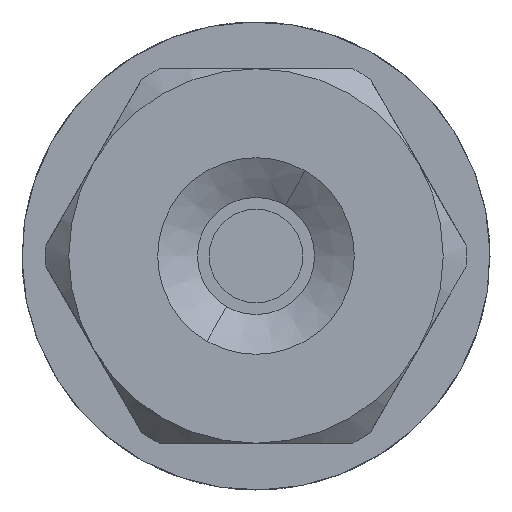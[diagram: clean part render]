
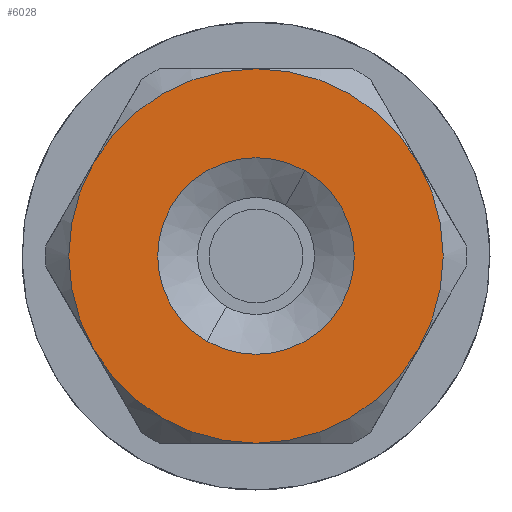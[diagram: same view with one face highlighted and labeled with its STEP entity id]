
A CAD part, front view. The second image highlights one B-rep face of the part: STEP entity #6028.
In plain terms, the highlighted planar face has unit normal (0, -1, 0).
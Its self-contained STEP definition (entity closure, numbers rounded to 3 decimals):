
#81 = CARTESIAN_POINT ( 'NONE',  ( -3.537, -7.875, 13. ) ) ;
#160 = CARTESIAN_POINT ( 'NONE',  ( -3.537, -7.875, 17. ) ) ;
#270 = CIRCLE ( 'NONE', #10194, 4. ) ;
#277 = VERTEX_POINT ( 'NONE', #619 ) ;
#345 = DIRECTION ( 'NONE',  ( 0.866, 0., -0.5 ) ) ;
#619 = CARTESIAN_POINT ( 'NONE',  ( -2.487, -7.875, 18.819 ) ) ;
#651 = AXIS2_PLACEMENT_3D ( 'NONE', #2520, #8050, #3325 ) ;
#726 = FACE_OUTER_BOUND ( 'NONE', #1029, .T. ) ;
#922 = CARTESIAN_POINT ( 'NONE',  ( -3.537, -7.875, 17. ) ) ;
#938 = AXIS2_PLACEMENT_3D ( 'NONE', #6075, #1323, #6859 ) ;
#966 = DIRECTION ( 'NONE',  ( -0.5, 0., -0.866 ) ) ;
#991 = AXIS2_PLACEMENT_3D ( 'NONE', #9471, #9392, #7077 ) ;
#1029 = EDGE_LOOP ( 'NONE', ( #7918, #4050, #4508, #2924, #6361, #1460 ) ) ;
#1323 = DIRECTION ( 'NONE',  ( 0., -1., 0. ) ) ;
#1460 = ORIENTED_EDGE ( 'NONE', *, *, #1888, .T. ) ;
#1719 = EDGE_CURVE ( 'NONE', #277, #6785, #5380, .T. ) ;
#1735 = DIRECTION ( 'NONE',  ( 0.866, 0., -0.5 ) ) ;
#1888 = EDGE_CURVE ( 'NONE', #7612, #5974, #2024, .T. ) ;
#2024 = CIRCLE ( 'NONE', #4726, 4. ) ;
#2203 = DIRECTION ( 'NONE',  ( 0., -1., 0. ) ) ;
#2485 = EDGE_LOOP ( 'NONE', ( #5484, #7243 ) ) ;
#2520 = CARTESIAN_POINT ( 'NONE',  ( -5.019, -7.875, 22.53 ) ) ;
#2625 = CIRCLE ( 'NONE', #938, 4. ) ;
#2893 = EDGE_CURVE ( 'NONE', #5393, #4580, #4692, .T. ) ;
#2924 = ORIENTED_EDGE ( 'NONE', *, *, #6706, .T. ) ;
#3325 = DIRECTION ( 'NONE',  ( 0.866, 0., -0.5 ) ) ;
#3608 = CARTESIAN_POINT ( 'NONE',  ( -3.537, -7.875, 17. ) ) ;
#3642 = CARTESIAN_POINT ( 'NONE',  ( -3.537, -7.875, 21. ) ) ;
#3689 = CARTESIAN_POINT ( 'NONE',  ( -3.537, -7.875, 17. ) ) ;
#3788 = CIRCLE ( 'NONE', #4846, 2.1 ) ;
#4050 = ORIENTED_EDGE ( 'NONE', *, *, #9643, .T. ) ;
#4399 = DIRECTION ( 'NONE',  ( 0.866, 0., -0.5 ) ) ;
#4469 = DIRECTION ( 'NONE',  ( 0.866, 0., -0.5 ) ) ;
#4508 = ORIENTED_EDGE ( 'NONE', *, *, #2893, .T. ) ;
#4580 = VERTEX_POINT ( 'NONE', #5040 ) ;
#4670 = DIRECTION ( 'NONE',  ( 0., -1., 0. ) ) ;
#4692 = CIRCLE ( 'NONE', #8287, 4. ) ;
#4726 = AXIS2_PLACEMENT_3D ( 'NONE', #6691, #2203, #345 ) ;
#4846 = AXIS2_PLACEMENT_3D ( 'NONE', #160, #5727, #966 ) ;
#4879 = CIRCLE ( 'NONE', #7345, 4. ) ;
#5040 = CARTESIAN_POINT ( 'NONE',  ( -0.073, -7.875, 15. ) ) ;
#5380 = CIRCLE ( 'NONE', #991, 2.1 ) ;
#5393 = VERTEX_POINT ( 'NONE', #81 ) ;
#5484 = ORIENTED_EDGE ( 'NONE', *, *, #9995, .F. ) ;
#5499 = CARTESIAN_POINT ( 'NONE',  ( -7.001, -7.875, 15. ) ) ;
#5638 = CARTESIAN_POINT ( 'NONE',  ( -4.587, -7.875, 15.181 ) ) ;
#5727 = DIRECTION ( 'NONE',  ( 0., -1., 0. ) ) ;
#5974 = VERTEX_POINT ( 'NONE', #8652 ) ;
#6028 = ADVANCED_FACE ( 'NONE', ( #8890, #726 ), #8016, .F. ) ;
#6075 = CARTESIAN_POINT ( 'NONE',  ( -3.537, -7.875, 17. ) ) ;
#6140 = EDGE_CURVE ( 'NONE', #5974, #6231, #4879, .T. ) ;
#6231 = VERTEX_POINT ( 'NONE', #5499 ) ;
#6361 = ORIENTED_EDGE ( 'NONE', *, *, #9710, .T. ) ;
#6456 = DIRECTION ( 'NONE',  ( 0., -1., 0. ) ) ;
#6691 = CARTESIAN_POINT ( 'NONE',  ( -3.537, -7.875, 17. ) ) ;
#6706 = EDGE_CURVE ( 'NONE', #4580, #7085, #2625, .T. ) ;
#6785 = VERTEX_POINT ( 'NONE', #5638 ) ;
#6842 = CARTESIAN_POINT ( 'NONE',  ( -0.073, -7.875, 19. ) ) ;
#6859 = DIRECTION ( 'NONE',  ( 0.866, 0., -0.5 ) ) ;
#7077 = DIRECTION ( 'NONE',  ( -0.5, 0., -0.866 ) ) ;
#7085 = VERTEX_POINT ( 'NONE', #6842 ) ;
#7243 = ORIENTED_EDGE ( 'NONE', *, *, #1719, .F. ) ;
#7345 = AXIS2_PLACEMENT_3D ( 'NONE', #9383, #4670, #10192 ) ;
#7612 = VERTEX_POINT ( 'NONE', #3642 ) ;
#7918 = ORIENTED_EDGE ( 'NONE', *, *, #6140, .T. ) ;
#8016 = PLANE ( 'NONE',  #651 ) ;
#8050 = DIRECTION ( 'NONE',  ( 0., 1., 0. ) ) ;
#8073 = AXIS2_PLACEMENT_3D ( 'NONE', #3608, #9114, #4399 ) ;
#8287 = AXIS2_PLACEMENT_3D ( 'NONE', #922, #6456, #1735 ) ;
#8652 = CARTESIAN_POINT ( 'NONE',  ( -7.001, -7.875, 19. ) ) ;
#8890 = FACE_BOUND ( 'NONE', #2485, .T. ) ;
#8948 = CIRCLE ( 'NONE', #8073, 4. ) ;
#9114 = DIRECTION ( 'NONE',  ( 0., -1., 0. ) ) ;
#9189 = DIRECTION ( 'NONE',  ( 0., -1., 0. ) ) ;
#9383 = CARTESIAN_POINT ( 'NONE',  ( -3.537, -7.875, 17. ) ) ;
#9392 = DIRECTION ( 'NONE',  ( 0., -1., 0. ) ) ;
#9471 = CARTESIAN_POINT ( 'NONE',  ( -3.537, -7.875, 17. ) ) ;
#9643 = EDGE_CURVE ( 'NONE', #6231, #5393, #8948, .T. ) ;
#9710 = EDGE_CURVE ( 'NONE', #7085, #7612, #270, .T. ) ;
#9995 = EDGE_CURVE ( 'NONE', #6785, #277, #3788, .T. ) ;
#10192 = DIRECTION ( 'NONE',  ( 0.866, 0., -0.5 ) ) ;
#10194 = AXIS2_PLACEMENT_3D ( 'NONE', #3689, #9189, #4469 ) ;
